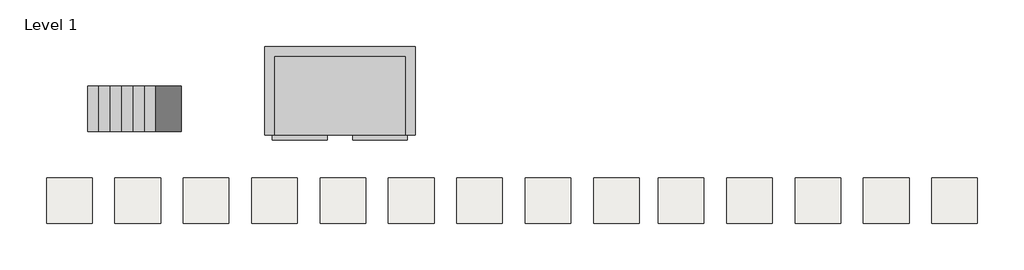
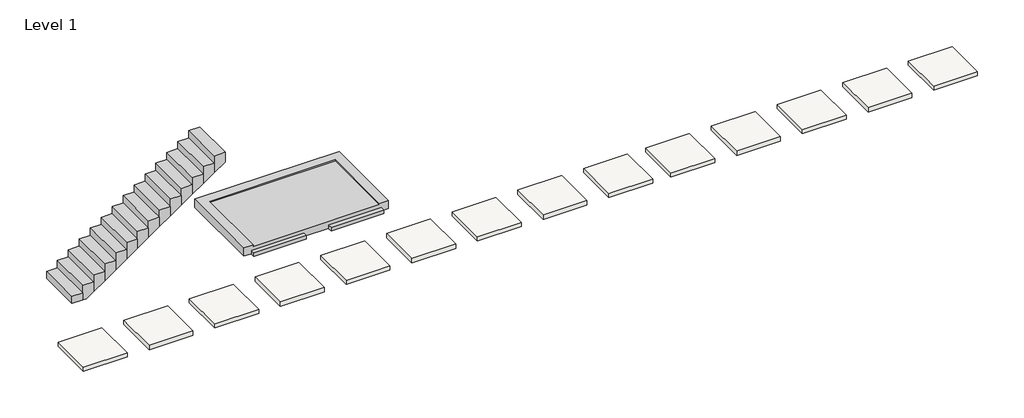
# One storey: 14 slabs, 1 proxy, 1 stair flight.
"""IFC4 building model written with IfcOpenShell, lengths in millimetres."""

import ifcopenshell
import ifcopenshell.guid

model = None  # the IFC model being written
_history = None  # IfcOwnerHistory: only IFC2X3 demands one
_inside = {}  # id of a spatial element -> (the spatial element, [elements in it])
_under = {}  # id of a project, library or spatial element -> (it, [spatial elements below it])
_declared = {}  # id of a project -> (the project, [libraries it declares])
_typed = {}  # id of a type object -> (the type object, [elements of that type])
_made_of = {}  # id of a material, layer set ... -> (it, [elements and type objects made of it])


def new_model(schema):
    """Start an empty IFC model of exactly this schema.

    Asked for "IFC4X3", IfcOpenShell would pick the latest addendum, in which some entities
    have other attributes; the version numbers below select the first issue.
    IFC2X3 requires an IfcOwnerHistory on every rooted entity: one is made here for all.
    """
    global model, _history
    if schema == "IFC4X3":
        model = ifcopenshell.file(schema_version=(4, 3, 0, 0))
    else:
        model = ifcopenshell.file(schema=schema)
    _inside.clear()
    _under.clear()
    _declared.clear()
    _typed.clear()
    _made_of.clear()
    _history = None
    if model.schema == "IFC2X3":
        org = make("IfcOrganization", Name="unknown")
        user = make(
            "IfcPersonAndOrganization",
            ThePerson=make("IfcPerson", FamilyName="unknown"),
            TheOrganization=org,
        )
        app = make(
            "IfcApplication",
            ApplicationDeveloper=org,
            Version="unknown",
            ApplicationFullName="unknown",
            ApplicationIdentifier="unknown",
        )
        _history = make(
            "IfcOwnerHistory",
            OwningUser=user,
            OwningApplication=app,
            ChangeAction="ADDED",
            CreationDate=0,
        )
    return model


def make(cls, **values):
    """One entity of the class cls with the attributes given. An attribute that is None is left unset."""
    return model.create_entity(
        cls, **{name: value for name, value in values.items() if value is not None}
    )


def rooted(cls, **values):
    """An entity with a GlobalId (a new one), such as an element, a storey or a relation."""
    return make(cls, GlobalId=ifcopenshell.guid.new(), OwnerHistory=_history, **values)


def si_unit(unit_type, name, prefix=None):
    """IfcSIUnit, for example si_unit("LENGTHUNIT", "METRE", prefix="MILLI")."""
    return make("IfcSIUnit", UnitType=unit_type, Prefix=prefix, Name=name)


def assignment(units):
    """IfcUnitAssignment: the units of a project."""
    return None if units is None else make("IfcUnitAssignment", Units=units)


def point(xyz):
    """IfcCartesianPoint."""
    return None if xyz is None else make("IfcCartesianPoint", Coordinates=xyz)


def direction(xyz):
    """IfcDirection."""
    return None if xyz is None else make("IfcDirection", DirectionRatios=xyz)


def frame(location, z_axis=None, x_axis=None):
    """IfcAxis2Placement3D, a coordinate frame: its origin and axes. An axis left out is left unset."""
    return make(
        "IfcAxis2Placement3D",
        Location=point(location),
        Axis=direction(z_axis),
        RefDirection=direction(x_axis),
    )


def origin():
    """The frame at (0, 0, 0) with its axes left unset."""
    return frame((0.0, 0.0, 0.0))


def place(relative_to, where):
    """IfcLocalPlacement: puts the frame where relative to a parent placement (None: the world)."""
    return make(
        "IfcLocalPlacement", PlacementRelTo=relative_to, RelativePlacement=where
    )


def context(
    kind, dimensions, precision=None, world=None, true_north=None, identifier=None
):
    """IfcGeometricRepresentationContext, for example the 3D "Model" context."""
    return make(
        "IfcGeometricRepresentationContext",
        ContextIdentifier=identifier,
        ContextType=kind,
        CoordinateSpaceDimension=dimensions,
        Precision=precision,
        WorldCoordinateSystem=world,
        TrueNorth=true_north,
    )


def project(units=None, contexts=None):
    """IfcProject with its units and contexts."""
    return rooted(
        "IfcProject",
        Name="project",
        RepresentationContexts=contexts,
        UnitsInContext=assignment(units),
    )


def spatial(cls, under=None, at=None, **own):
    """A site, building, storey or space (cls), placed at a placement, below another one or the project."""
    s = rooted(cls, ObjectPlacement=at, **own)
    if under is not None:
        _under.setdefault(under.id(), (under, []))[1].append(s)
    return s


def polyline(points):
    """IfcPolyline through the points."""
    return make("IfcPolyline", Points=[point(p) for p in points])


def outline(outer, holes=None, kind="AREA"):
    """IfcArbitraryClosedProfileDef: a profile drawn as a closed curve; with holes, ...WithVoids."""
    if holes is None:
        return make("IfcArbitraryClosedProfileDef", ProfileType=kind, OuterCurve=outer)
    return make(
        "IfcArbitraryProfileDefWithVoids",
        ProfileType=kind,
        OuterCurve=outer,
        InnerCurves=holes,
    )


def extrude(swept, where, along, depth):
    """IfcExtrudedAreaSolid: the profile swept, set in the frame where, extruded along a direction by depth."""
    return make(
        "IfcExtrudedAreaSolid",
        SweptArea=swept,
        Position=where,
        ExtrudedDirection=direction(along),
        Depth=depth,
    )


def faces_of(points, faces, orient=None, outer=None):
    """IfcFace entities. A face is a list of loops; a loop is a list of indices into points, from 0.

    orient and outer hold one flag for each loop. By default every Orientation is true, the
    first loop of a face is its IfcFaceOuterBound and the others are IfcFaceBound.
    """
    made = []
    for i, loops in enumerate(faces):
        bounds = []
        for j, loop in enumerate(loops):
            is_outer = j == 0 if outer is None else outer[i][j]
            bounds.append(
                make(
                    "IfcFaceOuterBound" if is_outer else "IfcFaceBound",
                    Bound=make("IfcPolyLoop", Polygon=[points[k] for k in loop]),
                    Orientation=True if orient is None else orient[i][j],
                )
            )
        made.append(make("IfcFace", Bounds=bounds))
    return made


def faceted_brep(points, faces, orient=None, outer=None, voids=None):
    """IfcFacetedBrep: a solid bounded by flat faces; with voids (closed shells), ...WithVoids."""
    shared = [point(p) for p in points]
    hull = make("IfcClosedShell", CfsFaces=faces_of(shared, faces, orient, outer))
    if voids is None:
        return make("IfcFacetedBrep", Outer=hull)
    return make(
        "IfcFacetedBrepWithVoids",
        Outer=hull,
        Voids=[
            make(cls, CfsFaces=faces_of(shared, fs, o, b)) for cls, fs, o, b in voids
        ],
    )


def shape(context_of_items, identifier, shape_type, items):
    """IfcShapeRepresentation: the items that make up one representation, for example the "Body"."""
    return make(
        "IfcShapeRepresentation",
        ContextOfItems=context_of_items,
        RepresentationIdentifier=identifier,
        RepresentationType=shape_type,
        Items=items,
    )


def source(mapping_origin, context_of_items, identifier, shape_type, items):
    """IfcRepresentationMap: a shape defined once, which mapped items show again and again."""
    return make(
        "IfcRepresentationMap",
        MappingOrigin=mapping_origin,
        MappedRepresentation=shape(context_of_items, identifier, shape_type, items),
    )


def transform(
    local_origin,
    x_axis=None,
    y_axis=None,
    z_axis=None,
    scale=None,
    scale2=None,
    scale3=None,
    uniform=True,
):
    """IfcCartesianTransformationOperator3D, or its non-uniform kind. x_axis, y_axis, z_axis: its Axis1, 2, 3."""
    if uniform:
        return make(
            "IfcCartesianTransformationOperator3D",
            Axis1=direction(x_axis),
            Axis2=direction(y_axis),
            LocalOrigin=point(local_origin),
            Scale=scale,
            Axis3=direction(z_axis),
        )
    return make(
        "IfcCartesianTransformationOperator3DnonUniform",
        Axis1=direction(x_axis),
        Axis2=direction(y_axis),
        LocalOrigin=point(local_origin),
        Scale=scale,
        Axis3=direction(z_axis),
        Scale2=scale2,
        Scale3=scale3,
    )


def mapped(mapping_source, mapping_target):
    """IfcMappedItem: shows the shape of a source again, moved by a transform."""
    return make(
        "IfcMappedItem", MappingSource=mapping_source, MappingTarget=mapping_target
    )


def made_of(thing, what):
    """Note that an element or type object is made of a material, layer set ...; save() writes the relation."""
    if what is not None:
        _made_of.setdefault(what.id(), (what, []))[1].append(thing)
    return thing


def element(
    cls,
    number,
    at=None,
    inside=None,
    cuts=None,
    type_object=None,
    material=None,
    context=None,
    identifier="Body",
    shape_type=None,
    held_by="IfcProductDefinitionShape",
    body=None,
    shapes=None,
    **own,
):
    """One element of the class cls, such as IfcWall. Its Tag is "e" and its number.

    at: its placement. inside: the storey or other place that contains it. cuts: it is an
    opening in that element (IfcRelVoidsElement). A single representation is given by context,
    identifier, shape_type and body (its items); several are given by shapes. held_by: the class
    of the entity that holds the representations. save() writes the other relations.
    """
    e = rooted(cls, Tag="e%d" % number, ObjectPlacement=at, **own)
    if body is not None:
        shapes = [shape(context, identifier, shape_type, body)]
    if shapes is not None:
        e.Representation = make(held_by, Representations=shapes)
    if inside is not None:
        _inside.setdefault(inside.id(), (inside, []))[1].append(e)
    if cuts is not None:
        rooted(
            "IfcRelVoidsElement", RelatingBuildingElement=cuts, RelatedOpeningElement=e
        )
    if type_object is not None:
        _typed.setdefault(type_object.id(), (type_object, []))[1].append(e)
    return made_of(e, material)


def aggregate(whole, parts):
    """IfcRelAggregates: a whole, such as a stair, and the parts it consists of."""
    return rooted("IfcRelAggregates", RelatingObject=whole, RelatedObjects=parts)


def save(model, path):
    """Write the relations noted so far, then the file.

    IfcRelAggregates (storeys below a building ...), IfcRelContainedInSpatialStructure (elements
    in a storey), IfcRelDefinesByType, IfcRelAssociatesMaterial and IfcRelDeclares: one each for
    every whole, place, type object, material and project.
    """
    for whole, parts in _under.values():
        aggregate(whole, parts)
    for where, things in _inside.values():
        rooted(
            "IfcRelContainedInSpatialStructure",
            RelatedElements=things,
            RelatingStructure=where,
        )
    for kind, things in _typed.values():
        rooted("IfcRelDefinesByType", RelatedObjects=things, RelatingType=kind)
    for what, things in _made_of.values():
        rooted("IfcRelAssociatesMaterial", RelatedObjects=things, RelatingMaterial=what)
    for by, libraries in _declared.values():
        rooted("IfcRelDeclares", RelatingContext=by, RelatedDefinitions=libraries)
    model.write(path)


def proxy_300_24_isr_concrete_platform_double_platform_9cdc8692(model_context):
    return source(origin(), model_context, "Body", "Brep", [
        faceted_brep([(60.0, -1800.0, 0.0), (2940.0, -1800.0, 0.0), (2940.0, -60.0, 0.0), (60.0, -60.0, 0.0), (3150.0, 150.0, -165.0), (3150.0, -1800.0, -165.0), (2980.0, -1800.0, -165.0), (2980.0, -1900.0, -165.0), (1780.0, -1900.0, -165.0), (1780.0, -1800.0, -165.0), (1220.0, -1800.0, -165.0), (1220.0, -1900.0, -165.0), (20.0, -1900.0, -165.0), (20.0, -1800.0, -165.0), (-150.0, -1800.0, -165.0), (-150.0, 150.0, -165.0), (-150.0, 150.0, 30.0), (3150.0, 150.0, 30.0), (-150.0, -1800.0, 30.0), (20.0, -1800.0, -85.0), (1220.0, -1800.0, -85.0), (1780.0, -1800.0, -85.0), (2980.0, -1800.0, -85.0), (3150.0, -1800.0, 30.0), (2940.0, -1800.0, 30.0), (60.0, -1800.0, 30.0), (1780.0, -1900.0, -85.0), (2980.0, -1900.0, -85.0), (1220.0, -1900.0, -85.0), (20.0, -1900.0, -85.0), (60.0, -60.0, 30.0), (2940.0, -60.0, 30.0)], [[[0, 1, 2, 3]], [[4, 5, 6, 7, 8, 9, 10, 11, 12, 13, 14, 15]], [[4, 15, 16, 17]], [[16, 15, 14, 18]], [[18, 14, 13, 19, 20, 10, 9, 21, 22, 6, 5, 23, 24, 1, 0, 25]], [[23, 5, 4, 17]], [[21, 26, 27, 22]], [[26, 21, 9, 8]], [[27, 26, 8, 7]], [[22, 27, 7, 6]], [[28, 20, 19, 29]], [[20, 28, 11, 10]], [[29, 19, 13, 12]], [[28, 29, 12, 11]], [[25, 0, 3, 30]], [[18, 25, 30, 31, 24, 23, 17, 16]], [[30, 3, 2, 31]], [[24, 31, 2, 1]]]),
    ])


model = new_model("IFC4")

# Units and contexts
model_context = context("Model", 3, world=origin())
ifc_project = project(units=[si_unit("LENGTHUNIT", "METRE", prefix="MILLI")], contexts=[model_context])

# Site, building, storey
site = spatial("IfcSite", under=ifc_project)
building = spatial("IfcBuilding", under=site)
storey = spatial("IfcBuildingStorey", under=building, Name="Level 1", Elevation=0.0)

# Proxy
placement = place(None, origin())
proxy_300_24_isr_concrete_platform_double_platform_shape = proxy_300_24_isr_concrete_platform_double_platform_9cdc8692(model_context)
element("IfcBuildingElementProxy", 1, Name="300_24_ISR_concrete_platform : double platform", ObjectType="300_24_ISR_concrete_platform : double platform", at=placement, inside=storey, context=model_context, shape_type="MappedRepresentation", body=[
    mapped(proxy_300_24_isr_concrete_platform_double_platform_shape, transform((-652.5441241, 2827.5413771, 0.0), x_axis=(1.0, 0.0, 0.0), y_axis=(0.0, 1.0, 0.0), z_axis=(0.0, 0.0, 1.0))),
])

# Slabs
element("IfcSlab", 2, ObjectType="Generic 100mm", at=placement, inside=storey, context=model_context, shape_type="SweptSolid", body=[
    extrude(outline(polyline([(-3088.5953778, 89.4387512), (-3088.5953778, -910.5612488), (-4088.5953778, -910.5612488), (-4088.5953778, 89.4387512), (-3088.5953778, 89.4387512)])), frame((0.0, 0.0, -100.0), z_axis=(0.0, 0.0, 1.0), x_axis=(1.0, 0.0, 0.0)), (0.0, 0.0, 1.0), 100.0),
])
element("IfcSlab", 3, ObjectType="Generic 100mm", at=placement, inside=storey, context=model_context, shape_type="SweptSolid", body=[
    extrude(outline(polyline([(-1588.5953778, 89.4387512), (-1588.5953778, -910.5612488), (-2588.5953778, -910.5612488), (-2588.5953778, 89.4387512), (-1588.5953778, 89.4387512)])), frame((0.0, 0.0, -100.0), z_axis=(0.0, 0.0, 1.0), x_axis=(1.0, 0.0, 0.0)), (0.0, 0.0, 1.0), 100.0),
])
element("IfcSlab", 4, ObjectType="Generic 100mm", at=placement, inside=storey, context=model_context, shape_type="SweptSolid", body=[
    extrude(outline(polyline([(-88.5953778, 89.4387512), (-88.5953778, -910.5612488), (-1088.5953778, -910.5612488), (-1088.5953778, 89.4387512), (-88.5953778, 89.4387512)])), frame((0.0, 0.0, -100.0), z_axis=(0.0, 0.0, 1.0), x_axis=(1.0, 0.0, 0.0)), (0.0, 0.0, 1.0), 100.0),
])
element("IfcSlab", 5, ObjectType="Generic 100mm", at=placement, inside=storey, context=model_context, shape_type="SweptSolid", body=[
    extrude(outline(polyline([(1411.4046222, 89.4387512), (1411.4046222, -910.5612488), (411.4046222, -910.5612488), (411.4046222, 89.4387512), (1411.4046222, 89.4387512)])), frame((0.0, 0.0, -100.0), z_axis=(0.0, 0.0, 1.0), x_axis=(1.0, 0.0, 0.0)), (0.0, 0.0, 1.0), 100.0),
])
element("IfcSlab", 6, ObjectType="Generic 100mm", at=placement, inside=storey, context=model_context, shape_type="SweptSolid", body=[
    extrude(outline(polyline([(2911.4046222, 89.4387512), (2911.4046222, -910.5612488), (1911.4046222, -910.5612488), (1911.4046222, 89.4387512), (2911.4046222, 89.4387512)])), frame((0.0, 0.0, -100.0), z_axis=(0.0, 0.0, 1.0), x_axis=(1.0, 0.0, 0.0)), (0.0, 0.0, 1.0), 100.0),
])
element("IfcSlab", 7, ObjectType="Generic 100mm", at=placement, inside=storey, context=model_context, shape_type="SweptSolid", body=[
    extrude(outline(polyline([(4411.4046222, 89.4387512), (4411.4046222, -910.5612488), (3411.4046222, -910.5612488), (3411.4046222, 89.4387512), (4411.4046222, 89.4387512)])), frame((0.0, 0.0, -100.0), z_axis=(0.0, 0.0, 1.0), x_axis=(1.0, 0.0, 0.0)), (0.0, 0.0, 1.0), 100.0),
])
element("IfcSlab", 8, ObjectType="Generic 100mm", at=placement, inside=storey, context=model_context, shape_type="SweptSolid", body=[
    extrude(outline(polyline([(5911.4046222, 89.4387512), (5911.4046222, -910.5612488), (4911.4046222, -910.5612488), (4911.4046222, 89.4387512), (5911.4046222, 89.4387512)])), frame((0.0, 0.0, -100.0), z_axis=(0.0, 0.0, 1.0), x_axis=(1.0, 0.0, 0.0)), (0.0, 0.0, 1.0), 100.0),
])
element("IfcSlab", 9, ObjectType="Generic 100mm", at=placement, inside=storey, context=model_context, shape_type="SweptSolid", body=[
    extrude(outline(polyline([(7411.4046222, 89.4387512), (7411.4046222, -910.5612488), (6411.4046222, -910.5612488), (6411.4046222, 89.4387512), (7411.4046222, 89.4387512)])), frame((0.0, 0.0, -100.0), z_axis=(0.0, 0.0, 1.0), x_axis=(1.0, 0.0, 0.0)), (0.0, 0.0, 1.0), 100.0),
])
element("IfcSlab", 10, ObjectType="Generic 100mm", at=placement, inside=storey, context=model_context, shape_type="SweptSolid", body=[
    extrude(outline(polyline([(-4588.5953778, 89.4387512), (-4588.5953778, -910.5612488), (-5588.5953778, -910.5612488), (-5588.5953778, 89.4387512), (-4588.5953778, 89.4387512)])), frame((0.0, 0.0, -100.0), z_axis=(0.0, 0.0, 1.0), x_axis=(1.0, 0.0, 0.0)), (0.0, 0.0, 1.0), 100.0),
])
element("IfcSlab", 11, ObjectType="Generic 100mm", at=placement, inside=storey, context=model_context, shape_type="SweptSolid", body=[
    extrude(outline(polyline([(8831.4046222, 89.4387512), (8831.4046222, -910.5612488), (7831.4046222, -910.5612488), (7831.4046222, 89.4387512), (8831.4046222, 89.4387512)])), frame((0.0, 0.0, -100.0), z_axis=(0.0, 0.0, 1.0), x_axis=(1.0, 0.0, 0.0)), (0.0, 0.0, 1.0), 100.0),
])
element("IfcSlab", 12, ObjectType="Generic 100mm", at=placement, inside=storey, context=model_context, shape_type="SweptSolid", body=[
    extrude(outline(polyline([(10331.4046222, 89.4387512), (10331.4046222, -910.5612488), (9331.4046222, -910.5612488), (9331.4046222, 89.4387512), (10331.4046222, 89.4387512)])), frame((0.0, 0.0, -100.0), z_axis=(0.0, 0.0, 1.0), x_axis=(1.0, 0.0, 0.0)), (0.0, 0.0, 1.0), 100.0),
])
element("IfcSlab", 13, ObjectType="Generic 100mm", at=placement, inside=storey, context=model_context, shape_type="SweptSolid", body=[
    extrude(outline(polyline([(11831.4046222, 89.4387512), (11831.4046222, -910.5612488), (10831.4046222, -910.5612488), (10831.4046222, 89.4387512), (11831.4046222, 89.4387512)])), frame((0.0, 0.0, -100.0), z_axis=(0.0, 0.0, 1.0), x_axis=(1.0, 0.0, 0.0)), (0.0, 0.0, 1.0), 100.0),
])
element("IfcSlab", 14, ObjectType="Generic 100mm", at=placement, inside=storey, context=model_context, shape_type="SweptSolid", body=[
    extrude(outline(polyline([(13331.4046222, 89.4387512), (13331.4046222, -910.5612488), (12331.4046222, -910.5612488), (12331.4046222, 89.4387512), (13331.4046222, 89.4387512)])), frame((0.0, 0.0, -100.0), z_axis=(0.0, 0.0, 1.0), x_axis=(1.0, 0.0, 0.0)), (0.0, 0.0, 1.0), 100.0),
])
element("IfcSlab", 15, ObjectType="Generic 100mm", at=placement, inside=storey, context=model_context, shape_type="SweptSolid", body=[
    extrude(outline(polyline([(14831.4046222, 89.4387512), (14831.4046222, -910.5612488), (13831.4046222, -910.5612488), (13831.4046222, 89.4387512), (14831.4046222, 89.4387512)])), frame((0.0, 0.0, -100.0), z_axis=(0.0, 0.0, 1.0), x_axis=(1.0, 0.0, 0.0)), (0.0, 0.0, 1.0), 100.0),
])

# Stair flight
element("IfcStairFlight", 16, ObjectType="190mm Depth", at=placement, inside=storey, context=model_context, shape_type="Brep", body=[
    faceted_brep([(-4438.5953778, 2107.5413771, 173.9130435), (-4688.5953778, 2107.5413771, 173.9130435), (-4688.5953778, 1107.5413771, 173.9130435), (-4438.5953778, 1107.5413771, 173.9130435), (-4438.5953778, 2107.5413771, 0.0), (-4688.5953778, 2107.5413771, 0.0), (-4688.5953778, 1107.5413771, 0.0), (-4438.5953778, 1107.5413771, 0.0), (-4188.5953778, 2107.5413771, 347.826087), (-4438.5953778, 2107.5413771, 347.826087), (-4438.5953778, 1107.5413771, 347.826087), (-4188.5953778, 1107.5413771, 347.826087), (-4188.5953778, 2107.5413771, 116.3742706), (-4355.8833918, 2107.5413771, 0.0), (-4355.8833918, 1107.5413771, 0.0), (-4188.5953778, 1107.5413771, 116.3742706), (-3938.5953778, 2107.5413771, 521.7391304), (-4188.5953778, 2107.5413771, 521.7391304), (-4188.5953778, 1107.5413771, 521.7391304), (-3938.5953778, 1107.5413771, 521.7391304), (-3938.5953778, 2107.5413771, 290.2873141), (-3938.5953778, 1107.5413771, 290.2873141), (-3688.5953778, 2107.5413771, 695.6521739), (-3938.5953778, 2107.5413771, 695.6521739), (-3938.5953778, 1107.5413771, 695.6521739), (-3688.5953778, 1107.5413771, 695.6521739), (-3688.5953778, 2107.5413771, 464.2003576), (-3688.5953778, 1107.5413771, 464.2003576), (-3438.5953778, 2107.5413771, 869.5652174), (-3688.5953778, 2107.5413771, 869.5652174), (-3688.5953778, 1107.5413771, 869.5652174), (-3438.5953778, 1107.5413771, 869.5652174), (-3438.5953778, 2107.5413771, 638.113401), (-3438.5953778, 1107.5413771, 638.113401), (-3188.5953778, 2107.5413771, 1043.4782609), (-3438.5953778, 2107.5413771, 1043.4782609), (-3438.5953778, 1107.5413771, 1043.4782609), (-3188.5953778, 1107.5413771, 1043.4782609), (-3188.5953778, 2107.5413771, 812.0264445), (-3188.5953778, 1107.5413771, 812.0264445), (-2938.5953778, 2107.5413771, 1217.3913043), (-3188.5953778, 2107.5413771, 1217.3913043), (-3188.5953778, 1107.5413771, 1217.3913043), (-2938.5953778, 1107.5413771, 1217.3913043), (-2938.5953778, 2107.5413771, 985.939488), (-2938.5953778, 1107.5413771, 985.939488), (-2688.5953778, 2107.5413771, 1391.3043478), (-2938.5953778, 2107.5413771, 1391.3043478), (-2938.5953778, 1107.5413771, 1391.3043478), (-2688.5953778, 1107.5413771, 1391.3043478), (-2688.5953778, 2107.5413771, 1159.8525315), (-2688.5953778, 1107.5413771, 1159.8525315), (-2438.5953778, 2107.5413771, 1565.2173913), (-2688.5953778, 2107.5413771, 1565.2173913), (-2688.5953778, 1107.5413771, 1565.2173913), (-2438.5953778, 1107.5413771, 1565.2173913), (-2438.5953778, 2107.5413771, 1333.765575), (-2438.5953778, 1107.5413771, 1333.765575), (-2188.5953778, 2107.5413771, 1739.1304348), (-2438.5953778, 2107.5413771, 1739.1304348), (-2438.5953778, 1107.5413771, 1739.1304348), (-2188.5953778, 1107.5413771, 1739.1304348), (-2188.5953778, 2107.5413771, 1507.6786184), (-2188.5953778, 1107.5413771, 1507.6786184), (-1938.5953778, 2107.5413771, 1913.0434783), (-2188.5953778, 2107.5413771, 1913.0434783), (-2188.5953778, 1107.5413771, 1913.0434783), (-1938.5953778, 1107.5413771, 1913.0434783), (-1938.5953778, 2107.5413771, 1681.5916619), (-1938.5953778, 1107.5413771, 1681.5916619), (-1688.5953778, 2107.5413771, 2086.9565217), (-1938.5953778, 2107.5413771, 2086.9565217), (-1938.5953778, 1107.5413771, 2086.9565217), (-1688.5953778, 1107.5413771, 2086.9565217), (-1688.5953778, 2107.5413771, 1855.5047054), (-1688.5953778, 1107.5413771, 1855.5047054), (-1438.5953778, 2107.5413771, 2260.8695652), (-1688.5953778, 2107.5413771, 2260.8695652), (-1688.5953778, 1107.5413771, 2260.8695652), (-1438.5953778, 1107.5413771, 2260.8695652), (-1438.5953778, 2107.5413771, 2029.4177489), (-1438.5953778, 1107.5413771, 2029.4177489), (-1188.5953778, 2107.5413771, 2203.3307924), (-1188.5953778, 1107.5413771, 2203.3307924), (-1188.5953778, 2107.5413771, 2434.7826087), (-1438.5953778, 2107.5413771, 2434.7826087), (-1438.5953778, 1107.5413771, 2434.7826087), (-1188.5953778, 1107.5413771, 2434.7826087)], [[[0, 1, 2, 3]], [[1, 0, 4, 5]], [[2, 1, 5, 6]], [[3, 2, 6, 7]], [[8, 9, 10, 11]], [[4, 0, 9, 8, 12, 13]], [[0, 3, 10, 9]], [[3, 7, 14, 15, 11, 10]], [[16, 17, 18, 19]], [[17, 16, 20, 12, 8]], [[8, 11, 18, 17]], [[19, 18, 11, 15, 21]], [[22, 23, 24, 25]], [[23, 22, 26, 20, 16]], [[16, 19, 24, 23]], [[25, 24, 19, 21, 27]], [[28, 29, 30, 31]], [[29, 28, 32, 26, 22]], [[22, 25, 30, 29]], [[31, 30, 25, 27, 33]], [[34, 35, 36, 37]], [[35, 34, 38, 32, 28]], [[28, 31, 36, 35]], [[37, 36, 31, 33, 39]], [[40, 41, 42, 43]], [[41, 40, 44, 38, 34]], [[34, 37, 42, 41]], [[43, 42, 37, 39, 45]], [[46, 47, 48, 49]], [[47, 46, 50, 44, 40]], [[40, 43, 48, 47]], [[49, 48, 43, 45, 51]], [[52, 53, 54, 55]], [[53, 52, 56, 50, 46]], [[46, 49, 54, 53]], [[55, 54, 49, 51, 57]], [[58, 59, 60, 61]], [[59, 58, 62, 56, 52]], [[52, 55, 60, 59]], [[61, 60, 55, 57, 63]], [[64, 65, 66, 67]], [[65, 64, 68, 62, 58]], [[58, 61, 66, 65]], [[67, 66, 61, 63, 69]], [[70, 71, 72, 73]], [[71, 70, 74, 68, 64]], [[64, 67, 72, 71]], [[73, 72, 67, 69, 75]], [[76, 77, 78, 79]], [[77, 76, 80, 74, 70]], [[70, 73, 78, 77]], [[79, 78, 73, 75, 81]], [[5, 4, 13, 14, 7, 6]], [[14, 13, 12, 20, 26, 32, 38, 44, 50, 56, 62, 68, 74, 80, 82, 83, 81, 75, 69, 63, 57, 51, 45, 39, 33, 27, 21, 15]], [[84, 85, 86, 87]], [[85, 84, 82, 80, 76]], [[76, 79, 86, 85]], [[87, 86, 79, 81, 83]], [[84, 87, 83, 82]]]),
])

save(model, "model.ifc")
